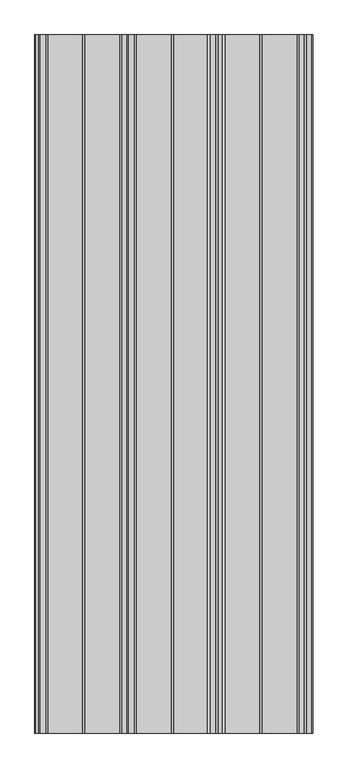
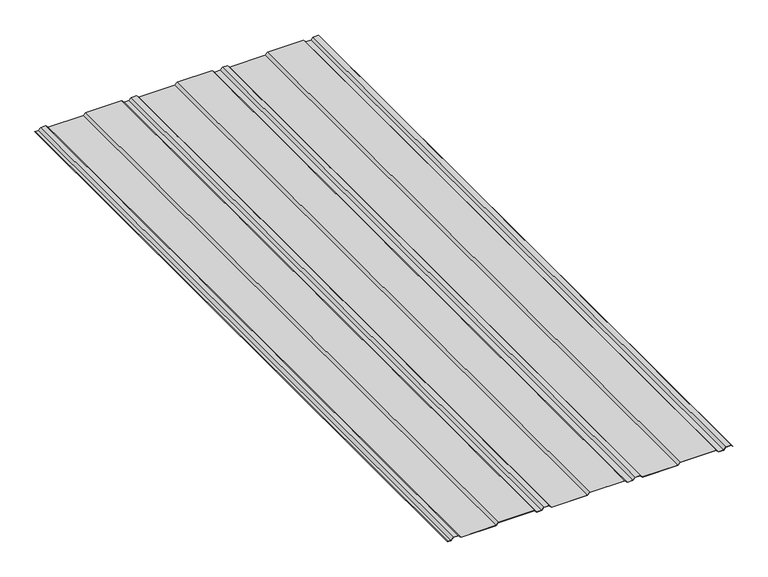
"""IFC4 building model written with IfcOpenShell, lengths in millimetres: proxy geometry, AQUAPLAST - W-Panel : RR 887 CZEKOLADOWY BRĄZ."""

import ifcopenshell
import ifcopenshell.guid

model = None  # the IFC model being written
_history = None  # IfcOwnerHistory: only IFC2X3 demands one
_inside = {}  # id of a spatial element -> (the spatial element, [elements in it])
_under = {}  # id of a project, library or spatial element -> (it, [spatial elements below it])
_declared = {}  # id of a project -> (the project, [libraries it declares])
_typed = {}  # id of a type object -> (the type object, [elements of that type])
_made_of = {}  # id of a material, layer set ... -> (it, [elements and type objects made of it])


def new_model(schema):
    """Start an empty IFC model of exactly this schema.

    Asked for "IFC4X3", IfcOpenShell would pick the latest addendum, in which some entities
    have other attributes; the version numbers below select the first issue.
    IFC2X3 requires an IfcOwnerHistory on every rooted entity: one is made here for all.
    """
    global model, _history
    if schema == "IFC4X3":
        model = ifcopenshell.file(schema_version=(4, 3, 0, 0))
    else:
        model = ifcopenshell.file(schema=schema)
    _inside.clear()
    _under.clear()
    _declared.clear()
    _typed.clear()
    _made_of.clear()
    _history = None
    if model.schema == "IFC2X3":
        org = make("IfcOrganization", Name="unknown")
        user = make(
            "IfcPersonAndOrganization",
            ThePerson=make("IfcPerson", FamilyName="unknown"),
            TheOrganization=org,
        )
        app = make(
            "IfcApplication",
            ApplicationDeveloper=org,
            Version="unknown",
            ApplicationFullName="unknown",
            ApplicationIdentifier="unknown",
        )
        _history = make(
            "IfcOwnerHistory",
            OwningUser=user,
            OwningApplication=app,
            ChangeAction="ADDED",
            CreationDate=0,
        )
    return model


def make(cls, **values):
    """One entity of the class cls with the attributes given. An attribute that is None is left unset."""
    return model.create_entity(
        cls, **{name: value for name, value in values.items() if value is not None}
    )


def rooted(cls, **values):
    """An entity with a GlobalId (a new one), such as an element, a storey or a relation."""
    return make(cls, GlobalId=ifcopenshell.guid.new(), OwnerHistory=_history, **values)


def si_unit(unit_type, name, prefix=None):
    """IfcSIUnit, for example si_unit("LENGTHUNIT", "METRE", prefix="MILLI")."""
    return make("IfcSIUnit", UnitType=unit_type, Prefix=prefix, Name=name)


def assignment(units):
    """IfcUnitAssignment: the units of a project."""
    return None if units is None else make("IfcUnitAssignment", Units=units)


def point(xyz):
    """IfcCartesianPoint."""
    return None if xyz is None else make("IfcCartesianPoint", Coordinates=xyz)


def direction(xyz):
    """IfcDirection."""
    return None if xyz is None else make("IfcDirection", DirectionRatios=xyz)


def frame(location, z_axis=None, x_axis=None):
    """IfcAxis2Placement3D, a coordinate frame: its origin and axes. An axis left out is left unset."""
    return make(
        "IfcAxis2Placement3D",
        Location=point(location),
        Axis=direction(z_axis),
        RefDirection=direction(x_axis),
    )


def origin():
    """The frame at (0, 0, 0) with its axes left unset."""
    return frame((0.0, 0.0, 0.0))


def place(relative_to, where):
    """IfcLocalPlacement: puts the frame where relative to a parent placement (None: the world)."""
    return make(
        "IfcLocalPlacement", PlacementRelTo=relative_to, RelativePlacement=where
    )


def context(
    kind, dimensions, precision=None, world=None, true_north=None, identifier=None
):
    """IfcGeometricRepresentationContext, for example the 3D "Model" context."""
    return make(
        "IfcGeometricRepresentationContext",
        ContextIdentifier=identifier,
        ContextType=kind,
        CoordinateSpaceDimension=dimensions,
        Precision=precision,
        WorldCoordinateSystem=world,
        TrueNorth=true_north,
    )


def project(units=None, contexts=None):
    """IfcProject with its units and contexts."""
    return rooted(
        "IfcProject",
        Name="project",
        RepresentationContexts=contexts,
        UnitsInContext=assignment(units),
    )


def spatial(cls, under=None, at=None, **own):
    """A site, building, storey or space (cls), placed at a placement, below another one or the project."""
    s = rooted(cls, ObjectPlacement=at, **own)
    if under is not None:
        _under.setdefault(under.id(), (under, []))[1].append(s)
    return s


def polyline(points):
    """IfcPolyline through the points."""
    return make("IfcPolyline", Points=[point(p) for p in points])


def outline(outer, holes=None, kind="AREA"):
    """IfcArbitraryClosedProfileDef: a profile drawn as a closed curve; with holes, ...WithVoids."""
    if holes is None:
        return make("IfcArbitraryClosedProfileDef", ProfileType=kind, OuterCurve=outer)
    return make(
        "IfcArbitraryProfileDefWithVoids",
        ProfileType=kind,
        OuterCurve=outer,
        InnerCurves=holes,
    )


def extrude(swept, where, along, depth):
    """IfcExtrudedAreaSolid: the profile swept, set in the frame where, extruded along a direction by depth."""
    return make(
        "IfcExtrudedAreaSolid",
        SweptArea=swept,
        Position=where,
        ExtrudedDirection=direction(along),
        Depth=depth,
    )


def shape(context_of_items, identifier, shape_type, items):
    """IfcShapeRepresentation: the items that make up one representation, for example the "Body"."""
    return make(
        "IfcShapeRepresentation",
        ContextOfItems=context_of_items,
        RepresentationIdentifier=identifier,
        RepresentationType=shape_type,
        Items=items,
    )


def source(mapping_origin, context_of_items, identifier, shape_type, items):
    """IfcRepresentationMap: a shape defined once, which mapped items show again and again."""
    return make(
        "IfcRepresentationMap",
        MappingOrigin=mapping_origin,
        MappedRepresentation=shape(context_of_items, identifier, shape_type, items),
    )


def transform(
    local_origin,
    x_axis=None,
    y_axis=None,
    z_axis=None,
    scale=None,
    scale2=None,
    scale3=None,
    uniform=True,
):
    """IfcCartesianTransformationOperator3D, or its non-uniform kind. x_axis, y_axis, z_axis: its Axis1, 2, 3."""
    if uniform:
        return make(
            "IfcCartesianTransformationOperator3D",
            Axis1=direction(x_axis),
            Axis2=direction(y_axis),
            LocalOrigin=point(local_origin),
            Scale=scale,
            Axis3=direction(z_axis),
        )
    return make(
        "IfcCartesianTransformationOperator3DnonUniform",
        Axis1=direction(x_axis),
        Axis2=direction(y_axis),
        LocalOrigin=point(local_origin),
        Scale=scale,
        Axis3=direction(z_axis),
        Scale2=scale2,
        Scale3=scale3,
    )


def mapped(mapping_source, mapping_target):
    """IfcMappedItem: shows the shape of a source again, moved by a transform."""
    return make(
        "IfcMappedItem", MappingSource=mapping_source, MappingTarget=mapping_target
    )


def made_of(thing, what):
    """Note that an element or type object is made of a material, layer set ...; save() writes the relation."""
    if what is not None:
        _made_of.setdefault(what.id(), (what, []))[1].append(thing)
    return thing


def element(
    cls,
    number,
    at=None,
    inside=None,
    cuts=None,
    type_object=None,
    material=None,
    context=None,
    identifier="Body",
    shape_type=None,
    held_by="IfcProductDefinitionShape",
    body=None,
    shapes=None,
    **own,
):
    """One element of the class cls, such as IfcWall. Its Tag is "e" and its number.

    at: its placement. inside: the storey or other place that contains it. cuts: it is an
    opening in that element (IfcRelVoidsElement). A single representation is given by context,
    identifier, shape_type and body (its items); several are given by shapes. held_by: the class
    of the entity that holds the representations. save() writes the other relations.
    """
    e = rooted(cls, Tag="e%d" % number, ObjectPlacement=at, **own)
    if body is not None:
        shapes = [shape(context, identifier, shape_type, body)]
    if shapes is not None:
        e.Representation = make(held_by, Representations=shapes)
    if inside is not None:
        _inside.setdefault(inside.id(), (inside, []))[1].append(e)
    if cuts is not None:
        rooted(
            "IfcRelVoidsElement", RelatingBuildingElement=cuts, RelatedOpeningElement=e
        )
    if type_object is not None:
        _typed.setdefault(type_object.id(), (type_object, []))[1].append(e)
    return made_of(e, material)


def aggregate(whole, parts):
    """IfcRelAggregates: a whole, such as a stair, and the parts it consists of."""
    return rooted("IfcRelAggregates", RelatingObject=whole, RelatedObjects=parts)


def save(model, path):
    """Write the relations noted so far, then the file.

    IfcRelAggregates (storeys below a building ...), IfcRelContainedInSpatialStructure (elements
    in a storey), IfcRelDefinesByType, IfcRelAssociatesMaterial and IfcRelDeclares: one each for
    every whole, place, type object, material and project.
    """
    for whole, parts in _under.values():
        aggregate(whole, parts)
    for where, things in _inside.values():
        rooted(
            "IfcRelContainedInSpatialStructure",
            RelatedElements=things,
            RelatingStructure=where,
        )
    for kind, things in _typed.values():
        rooted("IfcRelDefinesByType", RelatedObjects=things, RelatingType=kind)
    for what, things in _made_of.values():
        rooted("IfcRelAssociatesMaterial", RelatedObjects=things, RelatingMaterial=what)
    for by, libraries in _declared.values():
        rooted("IfcRelDeclares", RelatingContext=by, RelatedDefinitions=libraries)
    model.write(path)


def specialty_equipment_76631281(model_context):
    return source(origin(), model_context, "Body", "SweptSolid", [
        extrude(outline(polyline([(0.0, -587.9438713), (10.0, -577.9438713), (10.0, -556.226294), (0.0, -546.226294), (0.0, -397.6417131), (10.0, -387.6417131), (10.0, -235.9241358), (0.0, -225.9241358), (0.0, -205.9241358), (10.0, -195.9241358), (10.0, -174.2065585), (0.0, -164.2065585), (0.0, -12.520379), (10.0, -2.520379), (10.0, 144.1971983), (0.0, 154.1971983), (0.0, 179.1971983), (10.0, 189.1971983), (10.0, 208.9370534), (0.0, 218.9370534), (0.0, 368.9370534), (10.0, 378.9370534), (10.0, 529.1135982), (0.5, 538.6135982), (0.5, 560.9464217), (10.5, 570.9464217), (10.5, 593.0782125), (4.6782125, 598.9), (5.4643393, 598.6138733), (11.0, 593.0782125), (11.0, 570.9464217), (1.0, 560.9464217), (1.0, 538.820705), (10.5, 529.320705), (10.5, 378.7299466), (0.5, 368.7299466), (0.5, 219.1441602), (10.5, 209.1441602), (10.5, 188.9900915), (0.5, 178.9900915), (0.5, 154.404305), (10.5, 144.404305), (10.5, -2.7274858), (0.5, -12.7274858), (0.5, -163.9994518), (10.5, -173.9994518), (10.5, -196.1312426), (0.5, -206.1312426), (0.5, -225.717029), (10.5, -235.717029), (10.5, -387.8488199), (0.5, -397.8488199), (0.5, -546.0191872), (10.5, -556.0191872), (10.5, -578.150978), (0.5, -588.150978), (0.5, -601.385926), (0.0, -602.1), (0.0, -587.9438713)])), frame((0.0, 0.0, 0.0), z_axis=(0.0, 1.0, 0.0), x_axis=(0.0, 0.0, 1.0)), (0.0, 0.0, 1.0), 3013.0),
    ])


if __name__ == "__main__":
    model = new_model("IFC4")
    model_context = context("Model", 3, world=origin())
    ifc_project = project(units=[si_unit("LENGTHUNIT", "METRE", prefix="MILLI")], contexts=[model_context])
    site = spatial("IfcSite", under=ifc_project)
    building = spatial("IfcBuilding", under=site)
    placement = place(None, origin())
    specialty_equipment_shape = specialty_equipment_76631281(model_context)
    element("IfcBuildingElementProxy", 1, Name="AQUAPLAST - W-Panel : RR 887 CZEKOLADOWY BRĄZ", ObjectType="AQUAPLAST - W-Panel : RR 887 CZEKOLADOWY BRĄZ", at=placement, inside=building, context=model_context, shape_type="MappedRepresentation", body=[
        mapped(specialty_equipment_shape, transform((0.0, 0.0, 0.0), x_axis=(1.0, 0.0, 0.0), y_axis=(0.0, 1.0, 0.0), z_axis=(0.0, 0.0, 1.0))),
    ])
    save(model, "model.ifc")
